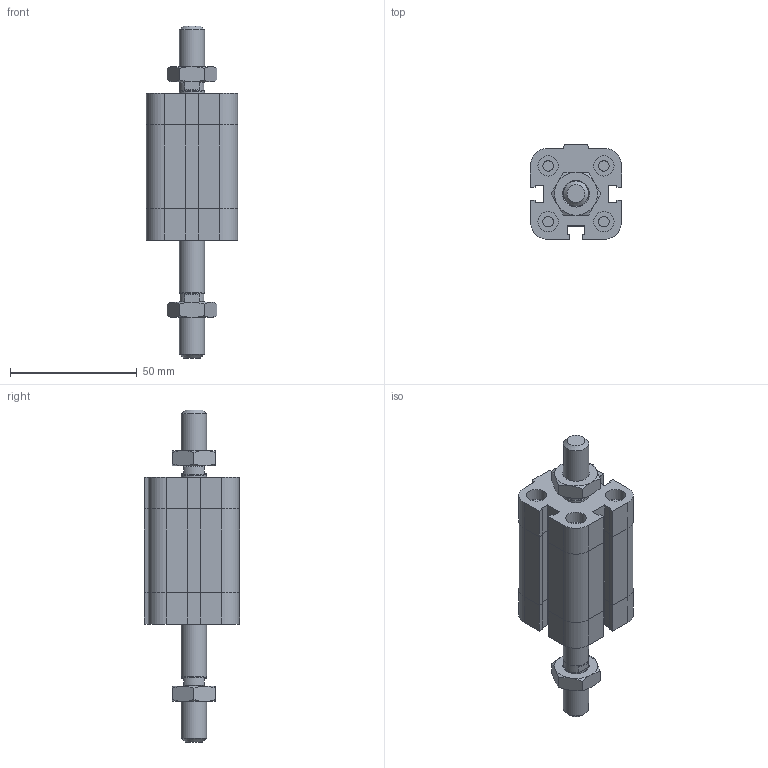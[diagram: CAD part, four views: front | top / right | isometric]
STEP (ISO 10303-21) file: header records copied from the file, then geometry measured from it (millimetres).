
FILE_DESCRIPTION((''),'2;1');
FILE_NAME('I:\Area Tecnica\Disegni\VARIE-3D\Componenti\EUROPE\15##_###_####_04_#\1581_20_0020_04_1.iam.stp','2009-04-20T14:49:48',(''),(''),'Autodesk Inventor 2009','Autodesk Inventor 2009','');
FILE_SCHEMA(('AUTOMOTIVE_DESIGN { 1 0 10303 214 1 1 1 1 }'));
Length unit declared in the file: millimetre
Products named in the file (4): 1581_20_0020_04_1; 1581_20_0020_03_1_C; 1561_20_0020_04_1_S; DBFM10
Assembly tree (4 placements, depth 2):
  1581_20_0020_04_1
    1581_20_0020_03_1_C
    1561_20_0020_04_1_S
    DBFM10  x2
Bounding box: 36 x 37.5 x 131 mm (x, y, z)
Volume: 71851.8 mm3; surface area: 22834.1 mm2
Topology: 4 solids, 4 shells, 222 faces, 483 edges, 289 vertices
Faces by surface type: plane 129, cone 35, bspline 33, cylinder 25
Full cylindrical faces by diameter (mm): 4.134 x4, 7.9 x1, 8 x4, 9.8 x2, 10 x2
Entity records: 5450 total; most frequent: CARTESIAN_POINT 1222, DIRECTION 802, ORIENTED_EDGE 772, EDGE_CURVE 386, AXIS2_PLACEMENT_3D 272, EDGE_LOOP 258, VECTOR 258, LINE 258
